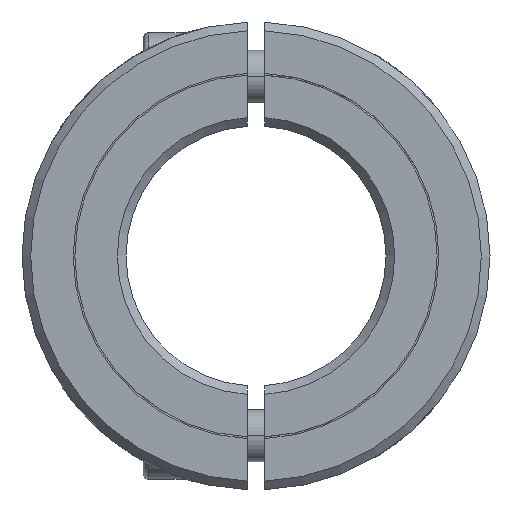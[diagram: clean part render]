
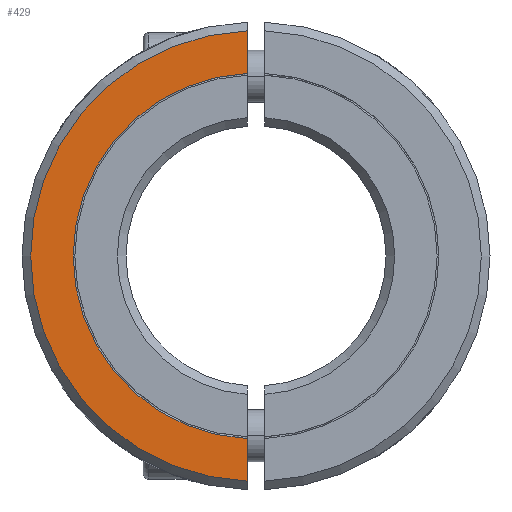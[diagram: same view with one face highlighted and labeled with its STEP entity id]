
A CAD part, left-side view. The second image highlights one B-rep face of the part: STEP entity #429.
In plain terms, the highlighted planar face has unit normal (-1, 0, 0).
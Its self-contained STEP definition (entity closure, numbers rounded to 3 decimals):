
#26=CARTESIAN_POINT('',(-7.5,0.,0.));
#27=DIRECTION('',(-1.,0.,0.));
#28=DIRECTION('',(0.,0.047,0.999));
#29=AXIS2_PLACEMENT_3D('',#26,#27,#28);
#31=DIRECTION('',(0.,0.,-1.));
#32=VECTOR('',#31,4.904);
#33=CARTESIAN_POINT('',(-7.5,1.,-21.076));
#34=LINE('',#33,#32);
#35=DIRECTION('',(0.,0.,-1.));
#36=VECTOR('',#35,4.904);
#37=CARTESIAN_POINT('',(-7.5,1.,25.981));
#38=LINE('',#37,#36);
#207=CARTESIAN_POINT('',(-7.5,0.,0.));
#208=DIRECTION('',(1.,0.,0.));
#209=DIRECTION('',(0.,0.038,-0.999));
#210=AXIS2_PLACEMENT_3D('',#207,#208,#209);
#374=CARTESIAN_POINT('',(-7.5,1.,-25.981));
#375=CARTESIAN_POINT('',(-7.5,1.,25.981));
#376=VERTEX_POINT('',#374);
#377=VERTEX_POINT('',#375);
#406=CARTESIAN_POINT('',(-7.5,1.,21.076));
#407=CARTESIAN_POINT('',(-7.5,1.,-21.076));
#408=VERTEX_POINT('',#406);
#409=VERTEX_POINT('',#407);
#414=CARTESIAN_POINT('',(-7.5,0.,0.));
#415=DIRECTION('',(1.,0.,0.));
#416=DIRECTION('',(0.,0.,-1.));
#417=AXIS2_PLACEMENT_3D('',#414,#415,#416);
#418=PLANE('',#417);
#420=ORIENTED_EDGE('',*,*,#419,.T.);
#422=ORIENTED_EDGE('',*,*,#421,.T.);
#424=ORIENTED_EDGE('',*,*,#423,.T.);
#426=ORIENTED_EDGE('',*,*,#425,.T.);
#427=EDGE_LOOP('',(#420,#422,#424,#426));
#428=FACE_OUTER_BOUND('',#427,.F.);
#429=ADVANCED_FACE('',(#428),#418,.F.);
#30=CIRCLE('',#29,21.1);
#211=CIRCLE('',#210,26.);
#419=EDGE_CURVE('',#408,#409,#30,.T.);
#421=EDGE_CURVE('',#409,#376,#34,.T.);
#423=EDGE_CURVE('',#376,#377,#211,.T.);
#425=EDGE_CURVE('',#377,#408,#38,.T.);
